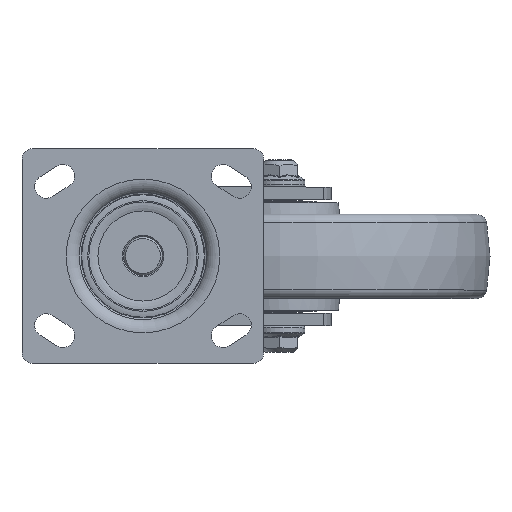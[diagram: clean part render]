
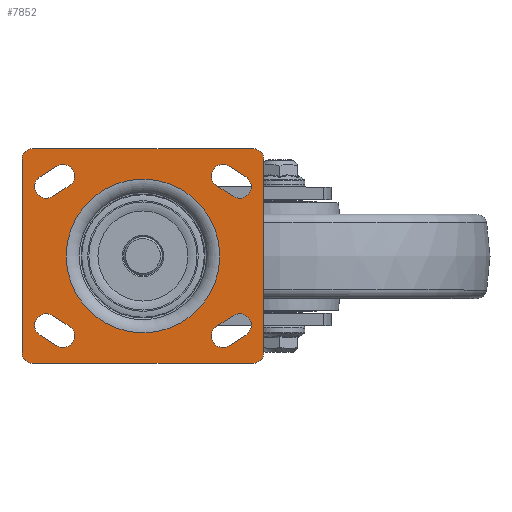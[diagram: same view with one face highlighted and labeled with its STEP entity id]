
A CAD part, top view. The second image highlights one B-rep face of the part: STEP entity #7852.
In plain terms, the highlighted planar face has unit normal (0, 0, 1).
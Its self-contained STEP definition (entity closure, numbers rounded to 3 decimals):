
#7030=CARTESIAN_POINT('',(271.885,290.025,272.553));
#7031=VERTEX_POINT('',#7030);
#7032=CARTESIAN_POINT('',(235.354,290.025,272.553));
#7033=DIRECTION('',(0.0,0.0,-1.0));
#7034=DIRECTION('',(-1.0,0.0,0.0));
#7035=AXIS2_PLACEMENT_3D('',#7032,#7033,#7034);
#7036=CIRCLE('',#7035,36.531);
#7037=EDGE_CURVE('',#7031,#7031,#7036,.T.);
#7058=CARTESIAN_POINT('',(177.854,336.025,272.553));
#7059=VERTEX_POINT('',#7058);
#7066=CARTESIAN_POINT('',(182.854,341.025,272.553));
#7067=VERTEX_POINT('',#7066);
#7068=CARTESIAN_POINT('',(182.854,336.025,272.553));
#7069=DIRECTION('',(0.0,0.0,-1.0));
#7070=DIRECTION('',(1.0,0.0,0.0));
#7071=AXIS2_PLACEMENT_3D('',#7068,#7069,#7070);
#7072=CIRCLE('',#7071,5.0);
#7073=EDGE_CURVE('',#7059,#7067,#7072,.T.);
#7097=CARTESIAN_POINT('',(177.854,244.025,272.553));
#7098=VERTEX_POINT('',#7097);
#7105=CARTESIAN_POINT('',(177.854,244.025,272.553));
#7106=DIRECTION('',(0.0,1.0,0.0));
#7107=VECTOR('',#7106,92.);
#7108=LINE('',#7105,#7107);
#7109=EDGE_CURVE('',#7098,#7059,#7108,.T.);
#7129=CARTESIAN_POINT('',(182.854,239.025,272.553));
#7130=VERTEX_POINT('',#7129);
#7137=CARTESIAN_POINT('',(182.854,244.025,272.553));
#7138=DIRECTION('',(0.0,0.0,-1.0));
#7139=DIRECTION('',(1.0,0.0,0.0));
#7140=AXIS2_PLACEMENT_3D('',#7137,#7138,#7139);
#7141=CIRCLE('',#7140,5.0);
#7142=EDGE_CURVE('',#7130,#7098,#7141,.T.);
#7161=CARTESIAN_POINT('',(287.854,239.025,272.553));
#7162=VERTEX_POINT('',#7161);
#7169=CARTESIAN_POINT('',(287.854,239.025,272.553));
#7170=DIRECTION('',(-1.0,0.0,0.0));
#7171=VECTOR('',#7170,105.0);
#7172=LINE('',#7169,#7171);
#7173=EDGE_CURVE('',#7162,#7130,#7172,.T.);
#7194=CARTESIAN_POINT('',(278.439,261.689,272.553));
#7195=VERTEX_POINT('',#7194);
#7202=CARTESIAN_POINT('',(270.439,256.689,272.553));
#7203=VERTEX_POINT('',#7202);
#7204=CARTESIAN_POINT('',(278.439,261.689,272.553));
#7205=DIRECTION('',(-0.848,-0.53,0.0));
#7206=VECTOR('',#7205,9.434);
#7207=LINE('',#7204,#7206);
#7208=EDGE_CURVE('',#7195,#7203,#7207,.T.);
#7233=CARTESIAN_POINT('',(284.269,252.361,272.553));
#7234=VERTEX_POINT('',#7233);
#7241=CARTESIAN_POINT('',(281.354,257.025,272.553));
#7242=DIRECTION('',(0.0,0.0,1.0));
#7243=DIRECTION('',(1.0,0.0,0.0));
#7244=AXIS2_PLACEMENT_3D('',#7241,#7242,#7243);
#7245=CIRCLE('',#7244,5.5);
#7246=EDGE_CURVE('',#7234,#7195,#7245,.T.);
#7267=CARTESIAN_POINT('',(186.439,252.361,272.553));
#7268=VERTEX_POINT('',#7267);
#7275=CARTESIAN_POINT('',(194.439,247.361,272.553));
#7276=VERTEX_POINT('',#7275);
#7277=CARTESIAN_POINT('',(186.439,252.361,272.553));
#7278=DIRECTION('',(0.848,-0.53,0.0));
#7279=VECTOR('',#7278,9.434);
#7280=LINE('',#7277,#7279);
#7281=EDGE_CURVE('',#7268,#7276,#7280,.T.);
#7306=CARTESIAN_POINT('',(192.269,261.689,272.553));
#7307=VERTEX_POINT('',#7306);
#7314=CARTESIAN_POINT('',(189.354,257.025,272.553));
#7315=DIRECTION('',(0.0,0.0,1.0));
#7316=DIRECTION('',(1.0,0.0,0.0));
#7317=AXIS2_PLACEMENT_3D('',#7314,#7315,#7316);
#7318=CIRCLE('',#7317,5.5);
#7319=EDGE_CURVE('',#7307,#7268,#7318,.T.);
#7340=CARTESIAN_POINT('',(284.269,327.689,272.553));
#7341=VERTEX_POINT('',#7340);
#7348=CARTESIAN_POINT('',(276.269,332.689,272.553));
#7349=VERTEX_POINT('',#7348);
#7350=CARTESIAN_POINT('',(284.269,327.689,272.553));
#7351=DIRECTION('',(-0.848,0.53,0.0));
#7352=VECTOR('',#7351,9.434);
#7353=LINE('',#7350,#7352);
#7354=EDGE_CURVE('',#7341,#7349,#7353,.T.);
#7379=CARTESIAN_POINT('',(278.439,318.361,272.553));
#7380=VERTEX_POINT('',#7379);
#7387=CARTESIAN_POINT('',(281.354,323.025,272.553));
#7388=DIRECTION('',(0.0,0.0,1.0));
#7389=DIRECTION('',(1.0,0.0,0.0));
#7390=AXIS2_PLACEMENT_3D('',#7387,#7388,#7389);
#7391=CIRCLE('',#7390,5.5);
#7392=EDGE_CURVE('',#7380,#7341,#7391,.T.);
#7413=CARTESIAN_POINT('',(192.269,318.361,272.553));
#7414=VERTEX_POINT('',#7413);
#7421=CARTESIAN_POINT('',(200.269,323.361,272.553));
#7422=VERTEX_POINT('',#7421);
#7423=CARTESIAN_POINT('',(192.269,318.361,272.553));
#7424=DIRECTION('',(0.848,0.53,0.0));
#7425=VECTOR('',#7424,9.434);
#7426=LINE('',#7423,#7425);
#7427=EDGE_CURVE('',#7414,#7422,#7426,.T.);
#7452=CARTESIAN_POINT('',(186.439,327.689,272.553));
#7453=VERTEX_POINT('',#7452);
#7460=CARTESIAN_POINT('',(189.354,323.025,272.553));
#7461=DIRECTION('',(0.0,0.0,1.0));
#7462=DIRECTION('',(1.0,0.0,0.0));
#7463=AXIS2_PLACEMENT_3D('',#7460,#7461,#7462);
#7464=CIRCLE('',#7463,5.5);
#7465=EDGE_CURVE('',#7453,#7414,#7464,.T.);
#7485=CARTESIAN_POINT('',(292.854,244.025,272.553));
#7486=VERTEX_POINT('',#7485);
#7493=CARTESIAN_POINT('',(287.854,244.025,272.553));
#7494=DIRECTION('',(0.0,0.0,-1.0));
#7495=DIRECTION('',(1.0,0.0,0.0));
#7496=AXIS2_PLACEMENT_3D('',#7493,#7494,#7495);
#7497=CIRCLE('',#7496,5.0);
#7498=EDGE_CURVE('',#7486,#7162,#7497,.T.);
#7517=CARTESIAN_POINT('',(292.854,336.025,272.553));
#7518=VERTEX_POINT('',#7517);
#7525=CARTESIAN_POINT('',(292.854,336.025,272.553));
#7526=DIRECTION('',(0.0,-1.0,0.0));
#7527=VECTOR('',#7526,92.);
#7528=LINE('',#7525,#7527);
#7529=EDGE_CURVE('',#7518,#7486,#7528,.T.);
#7549=CARTESIAN_POINT('',(287.854,341.025,272.553));
#7550=VERTEX_POINT('',#7549);
#7557=CARTESIAN_POINT('',(287.854,336.025,272.553));
#7558=DIRECTION('',(0.0,0.0,-1.0));
#7559=DIRECTION('',(1.0,0.0,0.0));
#7560=AXIS2_PLACEMENT_3D('',#7557,#7558,#7559);
#7561=CIRCLE('',#7560,5.0);
#7562=EDGE_CURVE('',#7550,#7518,#7561,.T.);
#7580=CARTESIAN_POINT('',(182.854,341.025,272.553));
#7581=DIRECTION('',(1.0,0.0,0.0));
#7582=VECTOR('',#7581,105.0);
#7583=LINE('',#7580,#7582);
#7584=EDGE_CURVE('',#7067,#7550,#7583,.T.);
#7603=CARTESIAN_POINT('',(276.269,247.361,272.553));
#7604=VERTEX_POINT('',#7603);
#7611=CARTESIAN_POINT('',(276.269,247.361,272.553));
#7612=DIRECTION('',(0.848,0.53,0.0));
#7613=VECTOR('',#7612,9.434);
#7614=LINE('',#7611,#7613);
#7615=EDGE_CURVE('',#7604,#7234,#7614,.T.);
#7634=CARTESIAN_POINT('',(273.354,252.025,272.553));
#7635=DIRECTION('',(0.0,0.0,1.0));
#7636=DIRECTION('',(1.0,0.0,0.0));
#7637=AXIS2_PLACEMENT_3D('',#7634,#7635,#7636);
#7638=CIRCLE('',#7637,5.5);
#7639=EDGE_CURVE('',#7203,#7604,#7638,.T.);
#7658=CARTESIAN_POINT('',(200.269,256.689,272.553));
#7659=VERTEX_POINT('',#7658);
#7666=CARTESIAN_POINT('',(200.269,256.689,272.553));
#7667=DIRECTION('',(-0.848,0.53,0.0));
#7668=VECTOR('',#7667,9.434);
#7669=LINE('',#7666,#7668);
#7670=EDGE_CURVE('',#7659,#7307,#7669,.T.);
#7689=CARTESIAN_POINT('',(197.354,252.025,272.553));
#7690=DIRECTION('',(0.0,0.0,1.0));
#7691=DIRECTION('',(1.0,0.0,0.0));
#7692=AXIS2_PLACEMENT_3D('',#7689,#7690,#7691);
#7693=CIRCLE('',#7692,5.5);
#7694=EDGE_CURVE('',#7276,#7659,#7693,.T.);
#7713=CARTESIAN_POINT('',(270.439,323.361,272.553));
#7714=VERTEX_POINT('',#7713);
#7721=CARTESIAN_POINT('',(270.439,323.361,272.553));
#7722=DIRECTION('',(0.848,-0.53,0.0));
#7723=VECTOR('',#7722,9.434);
#7724=LINE('',#7721,#7723);
#7725=EDGE_CURVE('',#7714,#7380,#7724,.T.);
#7744=CARTESIAN_POINT('',(273.354,328.025,272.553));
#7745=DIRECTION('',(0.0,0.0,1.0));
#7746=DIRECTION('',(1.0,0.0,0.0));
#7747=AXIS2_PLACEMENT_3D('',#7744,#7745,#7746);
#7748=CIRCLE('',#7747,5.5);
#7749=EDGE_CURVE('',#7349,#7714,#7748,.T.);
#7768=CARTESIAN_POINT('',(194.439,332.689,272.553));
#7769=VERTEX_POINT('',#7768);
#7776=CARTESIAN_POINT('',(194.439,332.689,272.553));
#7777=DIRECTION('',(-0.848,-0.53,0.0));
#7778=VECTOR('',#7777,9.434);
#7779=LINE('',#7776,#7778);
#7780=EDGE_CURVE('',#7769,#7453,#7779,.T.);
#7799=CARTESIAN_POINT('',(197.354,328.025,272.553));
#7800=DIRECTION('',(0.0,0.0,1.0));
#7801=DIRECTION('',(1.0,0.0,0.0));
#7802=AXIS2_PLACEMENT_3D('',#7799,#7800,#7801);
#7803=CIRCLE('',#7802,5.5);
#7804=EDGE_CURVE('',#7422,#7769,#7803,.T.);
#7810=CARTESIAN_POINT('',(177.088,290.025,272.553));
#7811=DIRECTION('',(0.0,0.0,1.0));
#7812=DIRECTION('',(1.0,0.0,0.0));
#7813=AXIS2_PLACEMENT_3D('',#7810,#7811,#7812);
#7814=PLANE('',#7813);
#7815=ORIENTED_EDGE('',*,*,#7498,.F.);
#7816=ORIENTED_EDGE('',*,*,#7529,.F.);
#7817=ORIENTED_EDGE('',*,*,#7562,.F.);
#7818=ORIENTED_EDGE('',*,*,#7584,.F.);
#7819=ORIENTED_EDGE('',*,*,#7073,.F.);
#7820=ORIENTED_EDGE('',*,*,#7109,.F.);
#7821=ORIENTED_EDGE('',*,*,#7142,.F.);
#7822=ORIENTED_EDGE('',*,*,#7173,.F.);
#7823=EDGE_LOOP('',(#7815,#7816,#7817,#7818,#7819,#7820,#7821,#7822));
#7824=FACE_OUTER_BOUND('',#7823,.T.);
#7825=ORIENTED_EDGE('',*,*,#7037,.T.);
#7826=EDGE_LOOP('',(#7825));
#7827=FACE_BOUND('',#7826,.T.);
#7828=ORIENTED_EDGE('',*,*,#7780,.F.);
#7829=ORIENTED_EDGE('',*,*,#7804,.F.);
#7830=ORIENTED_EDGE('',*,*,#7427,.F.);
#7831=ORIENTED_EDGE('',*,*,#7465,.F.);
#7832=EDGE_LOOP('',(#7828,#7829,#7830,#7831));
#7833=FACE_BOUND('',#7832,.T.);
#7834=ORIENTED_EDGE('',*,*,#7725,.F.);
#7835=ORIENTED_EDGE('',*,*,#7749,.F.);
#7836=ORIENTED_EDGE('',*,*,#7354,.F.);
#7837=ORIENTED_EDGE('',*,*,#7392,.F.);
#7838=EDGE_LOOP('',(#7834,#7835,#7836,#7837));
#7839=FACE_BOUND('',#7838,.T.);
#7840=ORIENTED_EDGE('',*,*,#7670,.F.);
#7841=ORIENTED_EDGE('',*,*,#7694,.F.);
#7842=ORIENTED_EDGE('',*,*,#7281,.F.);
#7843=ORIENTED_EDGE('',*,*,#7319,.F.);
#7844=EDGE_LOOP('',(#7840,#7841,#7842,#7843));
#7845=FACE_BOUND('',#7844,.T.);
#7846=ORIENTED_EDGE('',*,*,#7615,.F.);
#7847=ORIENTED_EDGE('',*,*,#7639,.F.);
#7848=ORIENTED_EDGE('',*,*,#7208,.F.);
#7849=ORIENTED_EDGE('',*,*,#7246,.F.);
#7850=EDGE_LOOP('',(#7846,#7847,#7848,#7849));
#7851=FACE_BOUND('',#7850,.T.);
#7852=ADVANCED_FACE('',(#7824,#7827,#7833,#7839,#7845,#7851),#7814,.T.);
